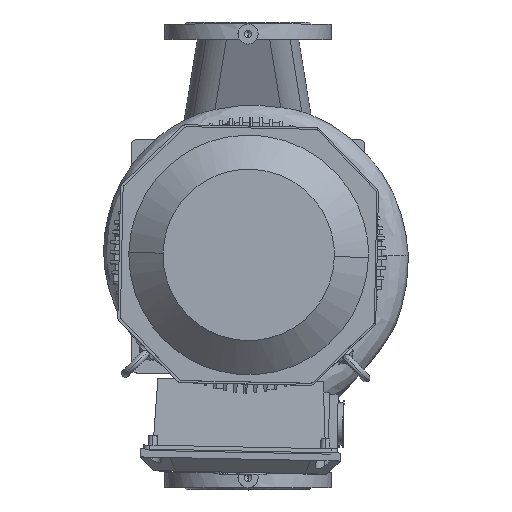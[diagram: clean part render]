
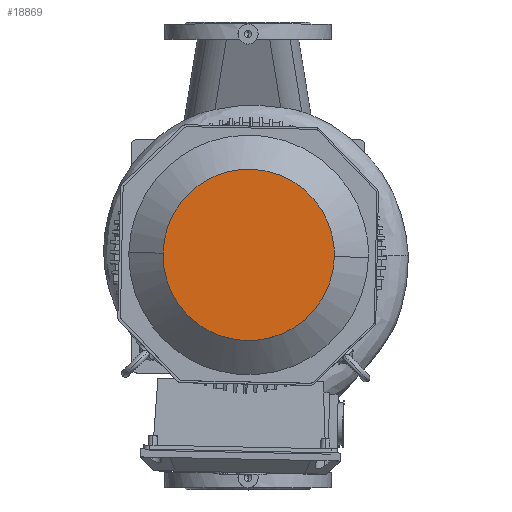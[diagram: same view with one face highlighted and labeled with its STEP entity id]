
A CAD part, top view. The second image highlights one B-rep face of the part: STEP entity #18869.
In plain terms, the highlighted free-form (B-spline) face has degree [1, 1] with [2, 2] control points.
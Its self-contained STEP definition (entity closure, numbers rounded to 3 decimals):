
#18869=ADVANCED_FACE('     F36',(#36620),#36621,.T.);
#18951=EDGE_CURVE('     E99',#36746,#36747,#36748,.T.);
#18955=EDGE_CURVE('     E99',#36747,#36746,#36752,.T.);
#36620=FACE_OUTER_BOUND('',#88662,.T.);
#36621=B_SPLINE_SURFACE_WITH_KNOTS('',1,1,((#88663,#88664),(#88665,#88666)),.UNSPECIFIED.,.F.,.F.,.F.,(2,2),(2,2),(0.044,0.955),(0.039,0.96),.UNSPECIFIED.);
#36746=VERTEX_POINT('',#89107);
#36747=VERTEX_POINT('',#89108);
#36748=(B_SPLINE_CURVE(2,(#89110,#89111,#89112,#89113,#89114),.UNSPECIFIED.,.F.,.F.)B_SPLINE_CURVE_WITH_KNOTS((3,2,3),(64.683,86.244,129.365),.UNSPECIFIED.)RATIONAL_B_SPLINE_CURVE((0.75,0.75,1.0,0.5,1.0))BOUNDED_CURVE()REPRESENTATION_ITEM('')GEOMETRIC_REPRESENTATION_ITEM()CURVE());
#36752=(B_SPLINE_CURVE(2,(#89128,#89129,#89130,#89131,#89132),.UNSPECIFIED.,.F.,.F.)B_SPLINE_CURVE_WITH_KNOTS((3,2,3),(0.0,43.122,64.683),.UNSPECIFIED.)RATIONAL_B_SPLINE_CURVE((1.0,0.5,1.0,0.75,0.75))BOUNDED_CURVE()REPRESENTATION_ITEM('')GEOMETRIC_REPRESENTATION_ITEM()CURVE());
#88662=EDGE_LOOP('',(#105519,#105520));
#88663=CARTESIAN_POINT('',(-269.045,153.272,-215.6));
#88664=CARTESIAN_POINT('',(-269.045,-103.789,-215.6));
#88665=CARTESIAN_POINT('',(-12.172,153.272,-215.6));
#88666=CARTESIAN_POINT('',(-12.172,-103.789,-215.6));
#89107=CARTESIAN_POINT('',(-268.613,24.546,-215.6));
#89108=CARTESIAN_POINT('',(-12.181,24.546,-215.6));
#89110=CARTESIAN_POINT('',(-268.613,24.546,-215.6));
#89111=CARTESIAN_POINT('',(-268.613,-49.479,-215.6));
#89112=CARTESIAN_POINT('',(-204.505,-86.492,-215.6));
#89113=CARTESIAN_POINT('',(-12.181,-197.531,-215.6));
#89114=CARTESIAN_POINT('',(-12.181,24.546,-215.6));
#89128=CARTESIAN_POINT('',(-12.181,24.546,-215.6));
#89129=CARTESIAN_POINT('',(-12.181,246.623,-215.6));
#89130=CARTESIAN_POINT('',(-204.505,135.585,-215.6));
#89131=CARTESIAN_POINT('',(-268.613,98.572,-215.6));
#89132=CARTESIAN_POINT('',(-268.613,24.546,-215.6));
#105519=ORIENTED_EDGE('',*,*,#18955,.F.);
#105520=ORIENTED_EDGE('',*,*,#18951,.F.);
